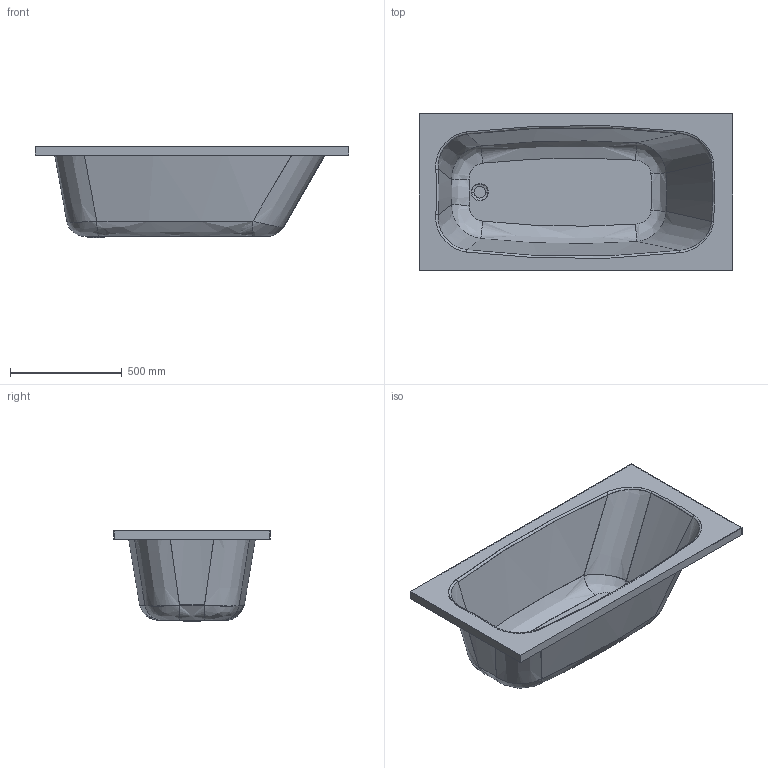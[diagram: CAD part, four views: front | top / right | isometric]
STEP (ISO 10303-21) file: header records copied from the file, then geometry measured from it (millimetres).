
FILE_DESCRIPTION(('STEP AP203'),'2;1');
FILE_NAME('BAB14070-A.stp','2015-07-31T12:34:00',(''),(''),'2014.1.117','THINKDESIGN','');
FILE_SCHEMA(('CONFIG_CONTROL_DESIGN'));
Length unit declared in the file: millimetre
Bounding box: 1400 x 700 x 408.97 mm (x, y, z)
Volume: 5946096.5 mm3; surface area: 3960628.8 mm2
Topology: 1 solids, 1 shells, 74 faces, 160 edges, 92 vertices
Faces by surface type: bspline 60, plane 14
Entity records: 4649 total; most frequent: CARTESIAN_POINT 3192, ORIENTED_EDGE 320, DIRECTION 212, EDGE_CURVE 160, VERTEX_POINT 92, AXIS2_PLACEMENT_3D 88, EDGE_LOOP 78, FACE_OUTER_BOUND 74
